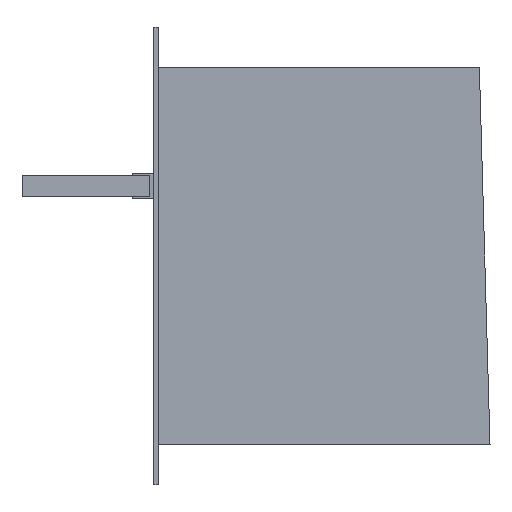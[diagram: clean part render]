
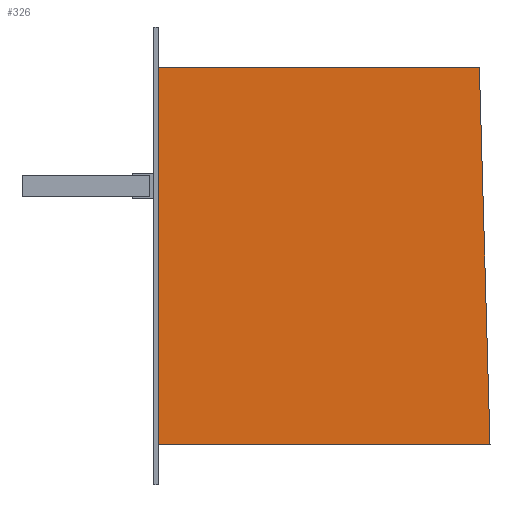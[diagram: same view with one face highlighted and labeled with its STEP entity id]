
A CAD part, left-side view. The second image highlights one B-rep face of the part: STEP entity #326.
In plain terms, the highlighted planar face has unit normal (-1, 0, 0).
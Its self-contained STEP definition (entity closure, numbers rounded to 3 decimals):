
#112 = VECTOR ( 'NONE', #675, 1000. ) ;
#144 = CARTESIAN_POINT ( 'NONE',  ( -941., 0., 88.5 ) ) ;
#158 = DIRECTION ( 'NONE',  ( 1., 0., 0. ) ) ;
#183 = VECTOR ( 'NONE', #265, 1000. ) ;
#236 = ORIENTED_EDGE ( 'NONE', *, *, #1776, .T. ) ;
#265 = DIRECTION ( 'NONE',  ( 0., 1., 0. ) ) ;
#322 = VERTEX_POINT ( 'NONE', #788 ) ;
#326 = ADVANCED_FACE ( 'NONE', ( #1550 ), #453, .F. ) ;
#430 = CARTESIAN_POINT ( 'NONE',  ( -941., 0., -88.5 ) ) ;
#439 = CARTESIAN_POINT ( 'NONE',  ( -941., -156., -88.5 ) ) ;
#453 = PLANE ( 'NONE',  #1688 ) ;
#535 = EDGE_CURVE ( 'NONE', #647, #1096, #1182, .T. ) ;
#564 = CARTESIAN_POINT ( 'NONE',  ( -941., -151., 88.5 ) ) ;
#589 = VECTOR ( 'NONE', #1627, 1000. ) ;
#618 = CARTESIAN_POINT ( 'NONE',  ( -941., 0., -88.5 ) ) ;
#634 = ORIENTED_EDGE ( 'NONE', *, *, #1812, .T. ) ;
#647 = VERTEX_POINT ( 'NONE', #618 ) ;
#652 = EDGE_LOOP ( 'NONE', ( #685, #634, #236, #1409 ) ) ;
#675 = DIRECTION ( 'NONE',  ( 0., 0., -1. ) ) ;
#685 = ORIENTED_EDGE ( 'NONE', *, *, #535, .T. ) ;
#788 = CARTESIAN_POINT ( 'NONE',  ( -941., 0., 88.5 ) ) ;
#831 = EDGE_CURVE ( 'NONE', #322, #647, #1856, .T. ) ;
#1045 = DIRECTION ( 'NONE',  ( 0., 0., -1. ) ) ;
#1096 = VERTEX_POINT ( 'NONE', #439 ) ;
#1182 = LINE ( 'NONE', #430, #1939 ) ;
#1315 = LINE ( 'NONE', #1924, #589 ) ;
#1357 = VERTEX_POINT ( 'NONE', #564 ) ;
#1409 = ORIENTED_EDGE ( 'NONE', *, *, #831, .T. ) ;
#1550 = FACE_OUTER_BOUND ( 'NONE', #652, .T. ) ;
#1627 = DIRECTION ( 'NONE',  ( 0., 0.028, 1. ) ) ;
#1688 = AXIS2_PLACEMENT_3D ( 'NONE', #1819, #158, #1045 ) ;
#1716 = CARTESIAN_POINT ( 'NONE',  ( -941., 0., 88.5 ) ) ;
#1776 = EDGE_CURVE ( 'NONE', #1357, #322, #1798, .T. ) ;
#1798 = LINE ( 'NONE', #144, #183 ) ;
#1812 = EDGE_CURVE ( 'NONE', #1096, #1357, #1315, .T. ) ;
#1819 = CARTESIAN_POINT ( 'NONE',  ( -941., 2., 107.5 ) ) ;
#1856 = LINE ( 'NONE', #1716, #112 ) ;
#1913 = DIRECTION ( 'NONE',  ( 0., -1., 0. ) ) ;
#1924 = CARTESIAN_POINT ( 'NONE',  ( -941., -151., 88.5 ) ) ;
#1939 = VECTOR ( 'NONE', #1913, 1000. ) ;
